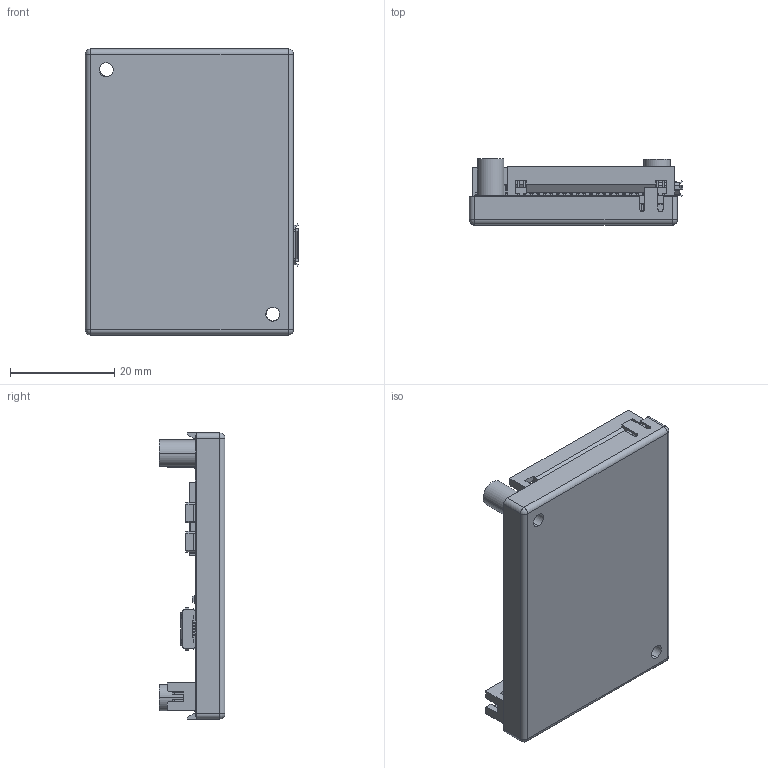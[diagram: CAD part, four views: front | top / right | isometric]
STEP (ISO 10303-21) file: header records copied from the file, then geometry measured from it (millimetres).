
FILE_DESCRIPTION((''),'2;1');
FILE_NAME('EPOS4_MODULE_ASM','2016-11-09T',('mmagrari'),(''),'CREO PARAMETRIC BY PTC INC, 2016050','CREO PARAMETRIC BY PTC INC, 2016050','');
FILE_SCHEMA(('CONFIG_CONTROL_DESIGN'));
Products named in the file (23): EPOS4_MODULE_PCB; EPOS4_MODULE_24_1-5_PCB_SITO; EPOS4_MODULE_24_1-5_PCB_SIBO; IC_TQFP100-14X14; IC_7X7X1; IC_PDSO_G56; USB_MICRO; DROSSEL_4X4X1-8; LED-0606_DUAL_SOCKEL; LED-0606-DUAL_GRUEN; LED-0606-DUAL_ROT; LED-0606-DUAL_ASM; POWERPAK_1212; USER_LIBRARY-CAP_1210; DROSSEL_5X5X2-8; IC_SO-08; SSOP4; MFP-4; STEELSPACER_7; COVER_36_2; 11100__SBH31-NBPB-D23-SP-____AS; IC_TSSOP-16; EPOS4_MODULE_ASM
Assembly tree (36 placements, depth 3):
  EPOS4_MODULE_ASM
    EPOS4_MODULE_PCB
    EPOS4_MODULE_24_1-5_PCB_SITO
    EPOS4_MODULE_24_1-5_PCB_SIBO
    IC_TQFP100-14X14
    IC_7X7X1
    IC_PDSO_G56
    USB_MICRO
    DROSSEL_4X4X1-8  x2
    LED-0606-DUAL_ASM  x2
      LED-0606_DUAL_SOCKEL
      LED-0606-DUAL_GRUEN
      LED-0606-DUAL_ROT
    POWERPAK_1212  x6
    USER_LIBRARY-CAP_1210  x5
    DROSSEL_5X5X2-8
    IC_SO-08
    SSOP4  x2
    MFP-4
    STEELSPACER_7  x2
    COVER_36_2
    11100__SBH31-NBPB-D23-SP-____AS  x2
    IC_TSSOP-16
Bounding box: 41 x 12.65 x 55 mm (x, y, z)
Volume: 8347.9 mm3; surface area: 23829.3 mm2
Topology: 63 solids, 63 shells, 6482 faces, 17172 edges, 10867 vertices
Faces by surface type: plane 5596, cylinder 826, sphere 48, torus 12
Entity records: 188142 total; most frequent: CARTESIAN_POINT 26140, ORIENTED_EDGE 25942, DIRECTION 23851, PRESENTATION_STYLE_ASSIGNMENT 13011, EDGE_CURVE 12971, STYLED_ITEM 12966, CURVE_STYLE 12899, VECTOR 11679
